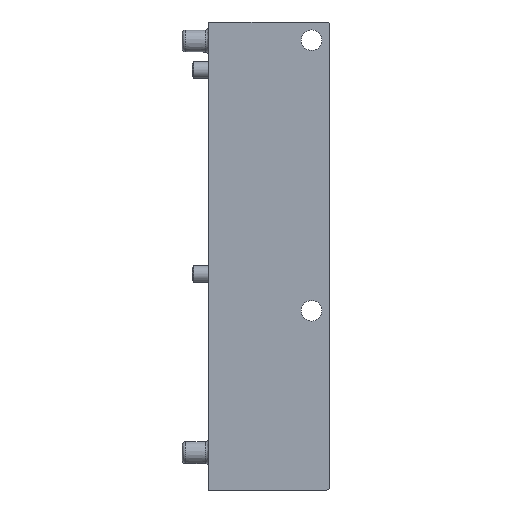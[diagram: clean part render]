
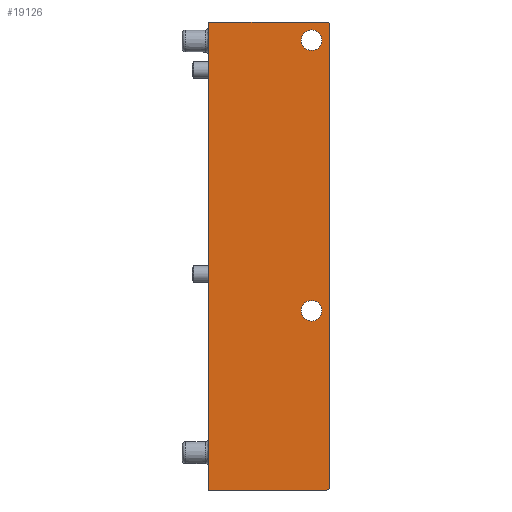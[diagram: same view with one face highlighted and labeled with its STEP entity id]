
A CAD part, front view. The second image highlights one B-rep face of the part: STEP entity #19126.
In plain terms, the highlighted planar face has unit normal (0, -1, 0).
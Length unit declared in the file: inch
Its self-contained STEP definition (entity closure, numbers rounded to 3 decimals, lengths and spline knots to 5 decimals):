
#267 = DIRECTION ( 'NONE',  ( 0., 1., 0. ) ) ;
#588 = CARTESIAN_POINT ( 'NONE',  ( 0.3999, 0., 2.55906 ) ) ;
#701 = VECTOR ( 'NONE', #16516, 39.37008 ) ;
#1072 = CARTESIAN_POINT ( 'NONE',  ( 0.73819, 0., -2.73622 ) ) ;
#1362 = VECTOR ( 'NONE', #27454, 39.37008 ) ;
#1443 = EDGE_CURVE ( 'NONE', #32834, #29719, #25097, .T. ) ;
#1973 = VERTEX_POINT ( 'NONE', #1072 ) ;
#2078 = EDGE_CURVE ( 'NONE', #1973, #25131, #7933, .T. ) ;
#2143 = DIRECTION ( 'NONE',  ( 0., 1., 0. ) ) ;
#2260 = DIRECTION ( 'NONE',  ( -1., 0., 0. ) ) ;
#2566 = CARTESIAN_POINT ( 'NONE',  ( 0.73819, 0., 2.77559 ) ) ;
#2699 = VERTEX_POINT ( 'NONE', #588 ) ;
#3313 = DIRECTION ( 'NONE',  ( -1., 0., 0. ) ) ;
#3450 = AXIS2_PLACEMENT_3D ( 'NONE', #21128, #5942, #26052 ) ;
#3561 = DIRECTION ( 'NONE',  ( 0., -1., 0. ) ) ;
#3809 = FACE_BOUND ( 'NONE', #21073, .T. ) ;
#3911 = ORIENTED_EDGE ( 'NONE', *, *, #6750, .F. ) ;
#3928 = CARTESIAN_POINT ( 'NONE',  ( 0.52165, 0., 2.55906 ) ) ;
#4057 = ORIENTED_EDGE ( 'NONE', *, *, #20250, .F. ) ;
#4430 = ORIENTED_EDGE ( 'NONE', *, *, #1443, .F. ) ;
#4580 = FACE_BOUND ( 'NONE', #15469, .T. ) ;
#4593 = CARTESIAN_POINT ( 'NONE',  ( 0.30512, 0., 2.77559 ) ) ;
#4886 = DIRECTION ( 'NONE',  ( 1., 0., 0. ) ) ;
#5120 = ORIENTED_EDGE ( 'NONE', *, *, #29077, .F. ) ;
#5942 = DIRECTION ( 'NONE',  ( 0., -1., 0. ) ) ;
#6172 = DIRECTION ( 'NONE',  ( 0., -1., 0. ) ) ;
#6703 = EDGE_CURVE ( 'NONE', #9768, #18068, #20875, .T. ) ;
#6750 = EDGE_CURVE ( 'NONE', #8075, #2699, #26453, .T. ) ;
#7117 = CARTESIAN_POINT ( 'NONE',  ( 0.3999, 0., -0.64961 ) ) ;
#7737 = DIRECTION ( 'NONE',  ( 0., 0., 1. ) ) ;
#7754 = ORIENTED_EDGE ( 'NONE', *, *, #2078, .F. ) ;
#7933 = CIRCLE ( 'NONE', #14539, 0.03937 ) ;
#8075 = VERTEX_POINT ( 'NONE', #30103 ) ;
#8777 = EDGE_CURVE ( 'NONE', #2699, #8075, #27073, .T. ) ;
#8807 = PLANE ( 'NONE',  #11599 ) ;
#9768 = VERTEX_POINT ( 'NONE', #20414 ) ;
#11256 = DIRECTION ( 'NONE',  ( 0., -1., 0. ) ) ;
#11599 = AXIS2_PLACEMENT_3D ( 'NONE', #26596, #29141, #19022 ) ;
#12435 = CARTESIAN_POINT ( 'NONE',  ( 0.73819, 0., 2.73622 ) ) ;
#12970 = LINE ( 'NONE', #24896, #15407 ) ;
#13757 = AXIS2_PLACEMENT_3D ( 'NONE', #21345, #6172, #3313 ) ;
#14539 = AXIS2_PLACEMENT_3D ( 'NONE', #22827, #267, #4886 ) ;
#14750 = CARTESIAN_POINT ( 'NONE',  ( -0.69882, 0., 2.77559 ) ) ;
#15131 = EDGE_LOOP ( 'NONE', ( #7754, #31580, #5120, #24640, #25765, #4057 ) ) ;
#15367 = ORIENTED_EDGE ( 'NONE', *, *, #8777, .F. ) ;
#15407 = VECTOR ( 'NONE', #27470, 39.37008 ) ;
#15469 = EDGE_LOOP ( 'NONE', ( #15367, #3911 ) ) ;
#16516 = DIRECTION ( 'NONE',  ( 0., 0., 1. ) ) ;
#16927 = ORIENTED_EDGE ( 'NONE', *, *, #24921, .F. ) ;
#17254 = LINE ( 'NONE', #4593, #1362 ) ;
#18068 = VERTEX_POINT ( 'NONE', #14750 ) ;
#18726 = DIRECTION ( 'NONE',  ( -1., 0., 0. ) ) ;
#18938 = EDGE_CURVE ( 'NONE', #1973, #26791, #19703, .T. ) ;
#19022 = DIRECTION ( 'NONE',  ( -1., 0., 0. ) ) ;
#19126 = ADVANCED_FACE ( 'NONE', ( #29204, #4580, #3809 ), #8807, .F. ) ;
#19703 = LINE ( 'NONE', #2566, #20056 ) ;
#19998 = CARTESIAN_POINT ( 'NONE',  ( 0.69882, 0., -2.77559 ) ) ;
#20056 = VECTOR ( 'NONE', #7737, 39.37008 ) ;
#20250 = EDGE_CURVE ( 'NONE', #25131, #9768, #12970, .T. ) ;
#20414 = CARTESIAN_POINT ( 'NONE',  ( -0.69882, 0., -2.77559 ) ) ;
#20621 = AXIS2_PLACEMENT_3D ( 'NONE', #23714, #3561, #18726 ) ;
#20875 = LINE ( 'NONE', #30858, #701 ) ;
#21073 = EDGE_LOOP ( 'NONE', ( #4430, #16927 ) ) ;
#21128 = CARTESIAN_POINT ( 'NONE',  ( 0.52165, 0., -0.64961 ) ) ;
#21345 = CARTESIAN_POINT ( 'NONE',  ( 0.52165, 0., 2.55906 ) ) ;
#22763 = CIRCLE ( 'NONE', #23143, 0.03937 ) ;
#22827 = CARTESIAN_POINT ( 'NONE',  ( 0.69882, 0., -2.73622 ) ) ;
#23143 = AXIS2_PLACEMENT_3D ( 'NONE', #27630, #2143, #2260 ) ;
#23714 = CARTESIAN_POINT ( 'NONE',  ( 0.52165, 0., -0.64961 ) ) ;
#24234 = CARTESIAN_POINT ( 'NONE',  ( 0.69882, 0., 2.77559 ) ) ;
#24640 = ORIENTED_EDGE ( 'NONE', *, *, #25541, .F. ) ;
#24896 = CARTESIAN_POINT ( 'NONE',  ( 0.30512, 0., -2.77559 ) ) ;
#24921 = EDGE_CURVE ( 'NONE', #29719, #32834, #28349, .T. ) ;
#25097 = CIRCLE ( 'NONE', #3450, 0.12176 ) ;
#25131 = VERTEX_POINT ( 'NONE', #19998 ) ;
#25541 = EDGE_CURVE ( 'NONE', #18068, #27536, #17254, .T. ) ;
#25765 = ORIENTED_EDGE ( 'NONE', *, *, #6703, .F. ) ;
#26052 = DIRECTION ( 'NONE',  ( -1., 0., 0. ) ) ;
#26437 = AXIS2_PLACEMENT_3D ( 'NONE', #3928, #11256, #29011 ) ;
#26453 = CIRCLE ( 'NONE', #26437, 0.12176 ) ;
#26596 = CARTESIAN_POINT ( 'NONE',  ( 0.30512, 0., 2.77559 ) ) ;
#26791 = VERTEX_POINT ( 'NONE', #12435 ) ;
#27073 = CIRCLE ( 'NONE', #13757, 0.12176 ) ;
#27454 = DIRECTION ( 'NONE',  ( 1., 0., 0. ) ) ;
#27470 = DIRECTION ( 'NONE',  ( -1., 0., 0. ) ) ;
#27536 = VERTEX_POINT ( 'NONE', #24234 ) ;
#27630 = CARTESIAN_POINT ( 'NONE',  ( 0.69882, 0., 2.73622 ) ) ;
#28349 = CIRCLE ( 'NONE', #20621, 0.12176 ) ;
#29011 = DIRECTION ( 'NONE',  ( -1., 0., 0. ) ) ;
#29077 = EDGE_CURVE ( 'NONE', #27536, #26791, #22763, .T. ) ;
#29141 = DIRECTION ( 'NONE',  ( 0., 1., 0. ) ) ;
#29204 = FACE_OUTER_BOUND ( 'NONE', #15131, .T. ) ;
#29719 = VERTEX_POINT ( 'NONE', #30230 ) ;
#30103 = CARTESIAN_POINT ( 'NONE',  ( 0.64341, 0., 2.55906 ) ) ;
#30230 = CARTESIAN_POINT ( 'NONE',  ( 0.64341, 0., -0.64961 ) ) ;
#30858 = CARTESIAN_POINT ( 'NONE',  ( -0.69882, 0., 2.77559 ) ) ;
#31580 = ORIENTED_EDGE ( 'NONE', *, *, #18938, .T. ) ;
#32834 = VERTEX_POINT ( 'NONE', #7117 ) ;
